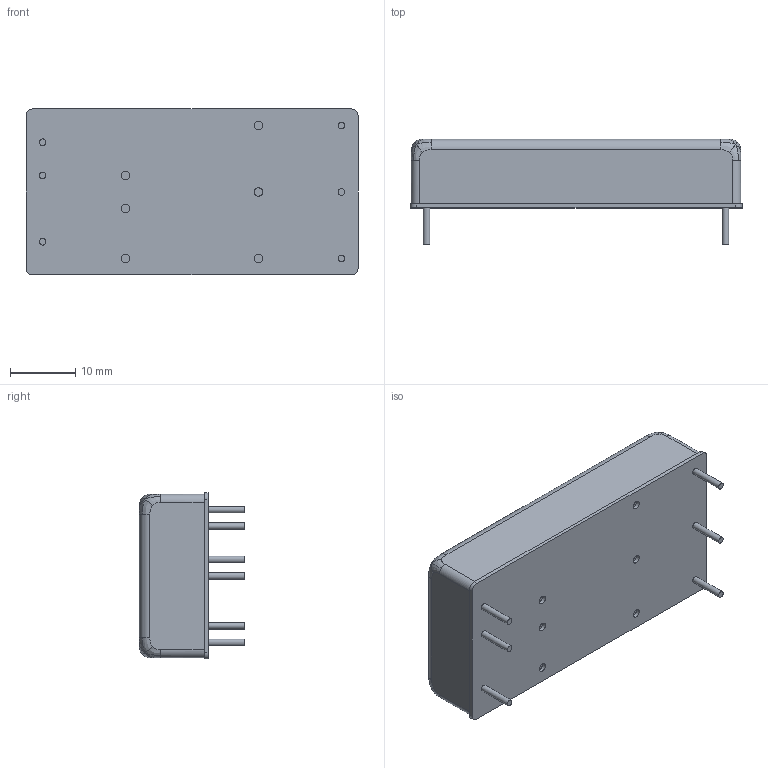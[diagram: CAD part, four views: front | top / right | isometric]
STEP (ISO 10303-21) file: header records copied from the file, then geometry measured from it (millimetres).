
FILE_DESCRIPTION(/* description */ ('Unknown'),/* implementation_level */ '2;1');
FILE_NAME(/* name */ 'PCB60WR(+)',/* time_stamp */ '2026-07-22T11:03:02+08:00',/* author */ ('Unknown'),/* organization */ ('Unknown'),/* preprocessor_version */ 'ST-DEVELOPER v16.7',/* originating_system */ 'Solid Edge',/* authorisation */ 'Unknown');
FILE_SCHEMA (('AUTOMOTIVE_DESIGN {1 0 10303 214 3 1 1}'));
Length unit declared in the file: millimetre
Products named in the file (1): PCB60WR(+)
Bounding box: 50.8 x 16.1 x 25.4 mm (x, y, z)
Volume: 13171 mm3; surface area: 4153.3 mm2
Topology: 1 solids, 1 shells, 71 faces, 162 edges, 106 vertices
Faces by surface type: cylinder 24, bspline 24, plane 23
Full cylindrical faces by diameter (mm): 1 x6, 1.3 x6
Entity records: 3724 total; most frequent: CARTESIAN_POINT 1840, ORIENTED_EDGE 288, DIRECTION 220, EDGE_CURVE 144, VERTEX_POINT 100, EDGE_LOOP 96, FACE_BOUND 96, AXIS2_PLACEMENT_3D 92
